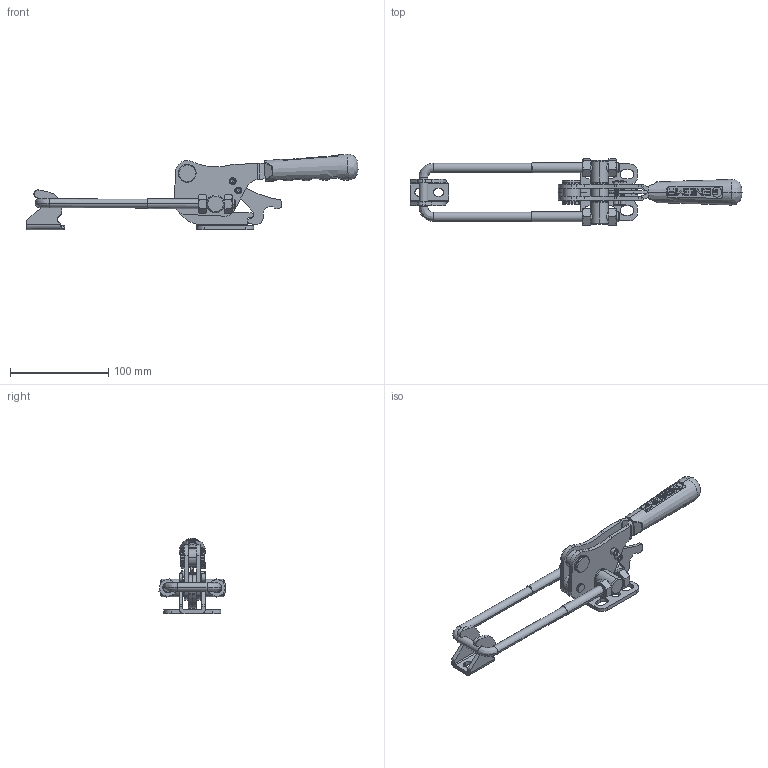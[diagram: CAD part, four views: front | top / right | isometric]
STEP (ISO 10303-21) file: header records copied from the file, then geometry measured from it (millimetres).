
FILE_DESCRIPTION (( 'STEP AP203' ), '1' );
FILE_NAME ('13110_Y_K.STEP', '2022-11-30T12:42:34', ( '' ), ( '' ), 'SwSTEP 2.0', 'SolidWorks 2023', '' );
FILE_SCHEMA (( 'CONFIG_CONTROL_DESIGN' ));
Length unit declared in the file: millimetre
Products named in the file (15): 13110_H.KOLU_2022_Varsay_X2_0131_X0_lan; M4_S; 13110_Y_K; 6x21_PER_X2_00c70130_X0_N_Varsay_X2_0131_X0_lan; M8-M10_REV1_DefaultSM-FLAT-PATTERN; M10_S(SOMUN)_Varsay_X2_0131_X0_lan; S_M4x20 Imbus Civata; 13110_OTOMAT_Varsay_X2_0131_X0_lan; Mirror13110_H.KOLU_2022_Varsay_X2_0131_X0_lan; C95_Yeni_Tutamak_Varsay_X2_0131_X0_lan; M10x90_U_KANCA_Varsay_X2_0131_X0_lan; 13108_K_X2_0130_X0_L_X2_0130_X0_T_MEKAN_X2_0130_X0_ZMASI; Mirror2022_13108_13110_Y_G_X2_00d6_X0_VDE; 13110_OTOMAT_2_Varsay_X2_0131_X0_lan; 2022_13108_13110_Y_G_X2_00d6_X0_VDE
Assembly tree (19 placements, depth 2):
  13110_Y_K
    2022_13108_13110_Y_G_X2_00d6_X0_VDE
    13110_H.KOLU_2022_Varsay_X2_0131_X0_lan
    13110_OTOMAT_Varsay_X2_0131_X0_lan
    13110_OTOMAT_2_Varsay_X2_0131_X0_lan
    Mirror2022_13108_13110_Y_G_X2_00d6_X0_VDE
    Mirror13110_H.KOLU_2022_Varsay_X2_0131_X0_lan
    M10x90_U_KANCA_Varsay_X2_0131_X0_lan
    M8-M10_REV1_DefaultSM-FLAT-PATTERN
    C95_Yeni_Tutamak_Varsay_X2_0131_X0_lan
    6x21_PER_X2_00c70130_X0_N_Varsay_X2_0131_X0_lan
    S_M4x20 Imbus Civata  x2
    M10_S(SOMUN)_Varsay_X2_0131_X0_lan  x4
    M4_S  x2
    13108_K_X2_0130_X0_L_X2_0130_X0_T_MEKAN_X2_0130_X0_ZMASI
Bounding box: 338.48 x 67.41 x 76.85 mm (x, y, z)
Volume: 157931.1 mm3; surface area: 82273 mm2
Topology: 17 solids, 25 shells, 848 faces, 2174 edges, 1387 vertices
Faces by surface type: plane 344, cylinder 326, cone 106, bspline 72
Entity records: 47721 total; most frequent: CARTESIAN_POINT 30201, ORIENTED_EDGE 3418, DIRECTION 3086, EDGE_CURVE 1713, VERTEX_POINT 1101, AXIS2_PLACEMENT_3D 1083, VECTOR 920, LINE 920
